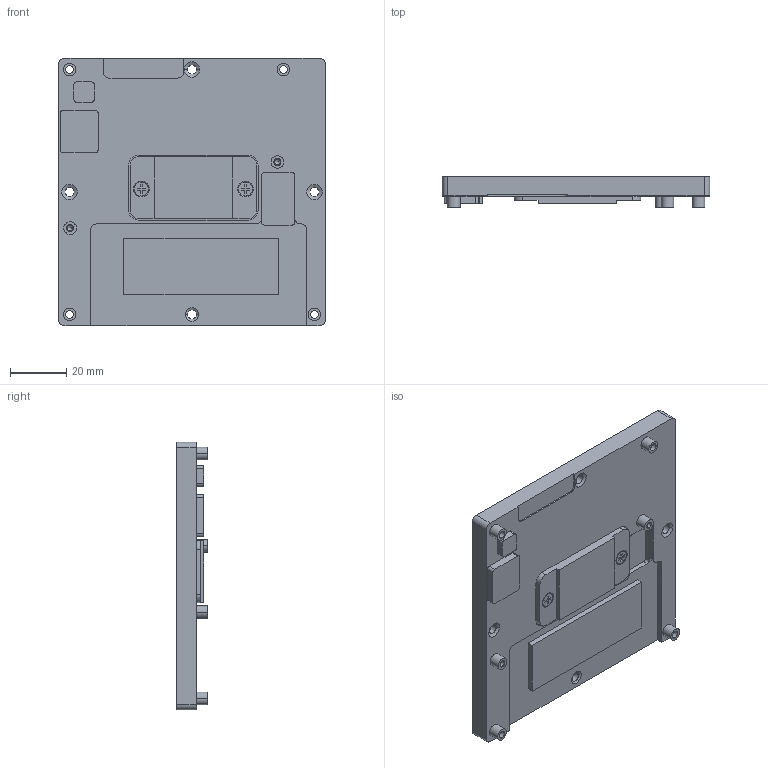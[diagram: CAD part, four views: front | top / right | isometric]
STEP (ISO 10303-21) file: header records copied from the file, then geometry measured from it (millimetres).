
FILE_DESCRIPTION((''),'2;1');
FILE_NAME('ESM-ASLC-HEATSPERDER_ASM','2024-12-19T11:11:10',('arvin_tsai'),(''),'CREO PARAMETRIC BY PTC INC, 2023294','CREO PARAMETRIC BY PTC INC, 2023294','');
FILE_SCHEMA(('CONFIG_CONTROL_DESIGN'));
Length unit declared in the file: millimetre
Products named in the file (4): ESM-ASLC-HEATSPERDER-01; ESM-ASLC_HEATSPREADER-CU; E1931030801R; ESM-ASLC-HEATSPERDER_ASM
Assembly tree (4 placements, depth 2):
  ESM-ASLC-HEATSPERDER_ASM
    ESM-ASLC-HEATSPERDER-01
    ESM-ASLC_HEATSPREADER-CU
    E1931030801R  x2
Bounding box: 95 x 11 x 95 mm (x, y, z)
Volume: 60658.1 mm3; surface area: 26369.1 mm2
Topology: 4 solids, 6 shells, 238 faces, 642 edges, 424 vertices
Faces by surface type: plane 92, cylinder 92, cone 36, bspline 18
Entity records: 9664 total; most frequent: CARTESIAN_POINT 4389, DIRECTION 1100, ORIENTED_EDGE 1058, EDGE_CURVE 533, AXIS2_PLACEMENT_3D 403, VERTEX_POINT 349, VECTOR 294, LINE 294
